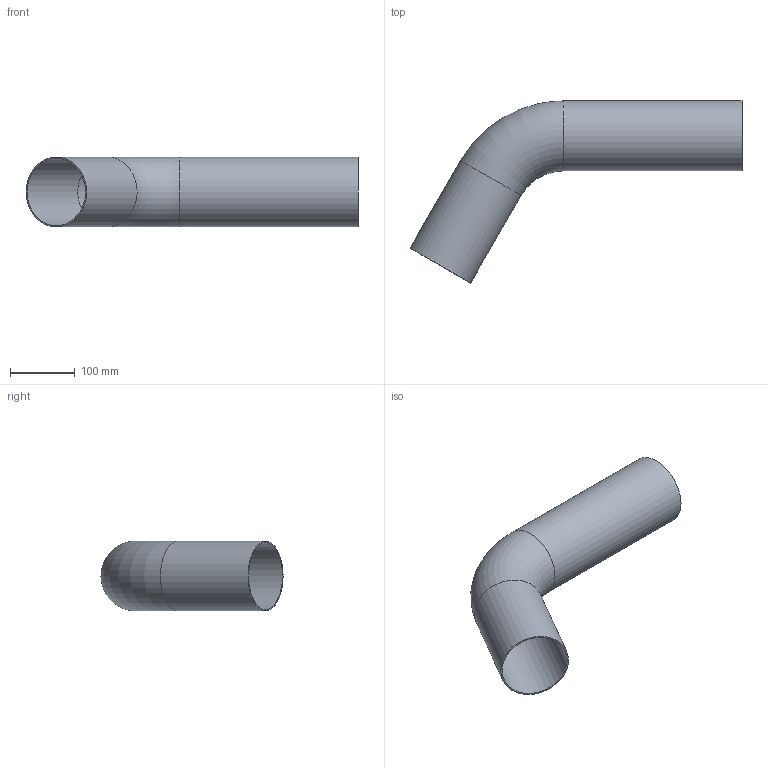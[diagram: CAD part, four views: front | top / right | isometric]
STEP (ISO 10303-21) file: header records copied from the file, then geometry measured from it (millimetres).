
FILE_DESCRIPTION((''),'2;1');
FILE_NAME('G:\Technics\CAD\Bauteile\108\69058108(0).stp','2008-03-18T14:52:08',('herberg'),(''),'Autodesk Inventor 2008','Autodesk Inventor 2008','');
FILE_SCHEMA(('AUTOMOTIVE_DESIGN { 1 0 10303 214 1 1 1 1 }'));
Length unit declared in the file: millimetre
Products named in the file (1): 69058108(0)
Bounding box: 512.27 x 281.05 x 108 mm (x, y, z)
Volume: 377648.4 mm3; surface area: 378980.4 mm2
Topology: 1 solids, 1 shells, 8 faces, 14 edges, 8 vertices
Faces by surface type: cylinder 4, torus 2, plane 2
Full cylindrical faces by diameter (mm): 104 x2, 108 x2
Entity records: 194 total; most frequent: DIRECTION 34, CARTESIAN_POINT 25, AXIS2_PLACEMENT_3D 17, ORIENTED_EDGE 16, EDGE_LOOP 16, VERTEX_POINT 8, CIRCLE 8, EDGE_CURVE 8
